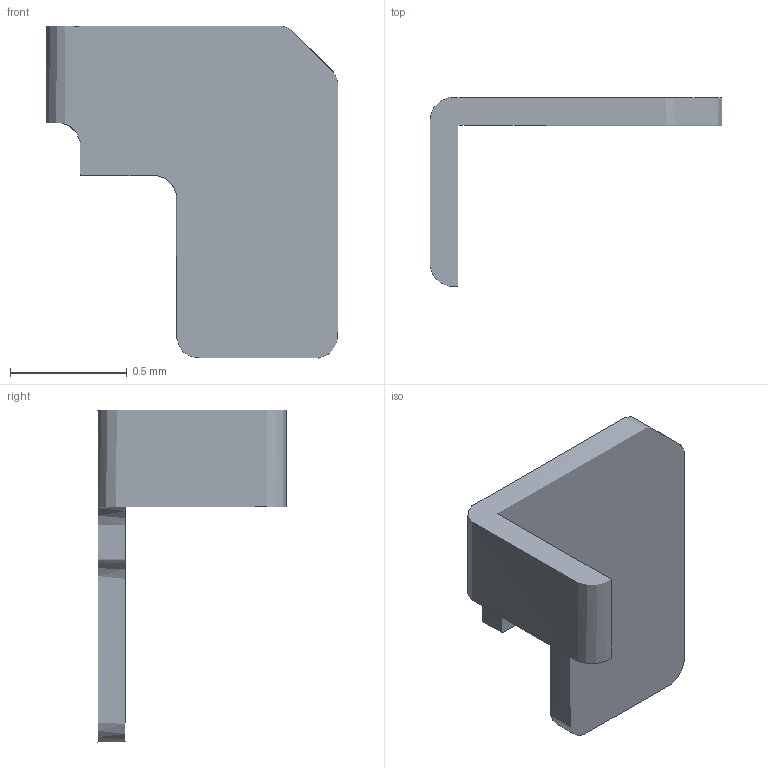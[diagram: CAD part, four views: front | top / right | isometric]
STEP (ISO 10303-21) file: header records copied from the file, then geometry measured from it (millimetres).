
FILE_DESCRIPTION(/* description */ ('STEP AP242 Edition 2','CAx-IF Rec.Pracs.---Representation and Presentation of Product Manufacturing Information (PMI)---4.0---2014-10-13','CAx-IF Rec.Pracs.---3D Tessellated Geometry---0.4---2014-09-14','2;1','CAx-IF Rec.Pracs.---User Defined Attributes---1.5---2016-08-15'),/* implementation_level */ '2;1');
FILE_NAME(/* name */ 'Assembly 1 - Part 32',/* time_stamp */ '2026-03-29T21:14:57Z',/* author */ (''),/* organization */ (''),/* preprocessor_version */ 'ST-DEVELOPER v20',/* originating_system */ 'ONSHAPE BY PTC INC, 1.212',/* authorisation */ ' ');
FILE_SCHEMA (('AP242_MANAGED_MODEL_BASED_3D_ENGINEERING_MIM_LF { 1 0 10303 442 3 1 4 }'));
Length unit declared in the file: metre
Products named in the file (1): Part 32
Bounding box: 1.25 x 0.81 x 1.42 mm (x, y, z)
Surface area: 3.8 mm2 (no closed solid volume)
Topology: 0 solids, 1 shells, 1 faces, 0 edges, 0 vertices
Faces by surface type: other 1
Entity records: 31 total; most frequent: DIRECTION 2, SHAPE_REPRESENTATION_RELATIONSHIP 1, TESSELLATED_SHAPE_REPRESENTATION 1, STYLED_ITEM 1, PRESENTATION_STYLE_ASSIGNMENT 1, SURFACE_STYLE_USAGE 1, SURFACE_SIDE_STYLE 1, SURFACE_STYLE_FILL_AREA 1
